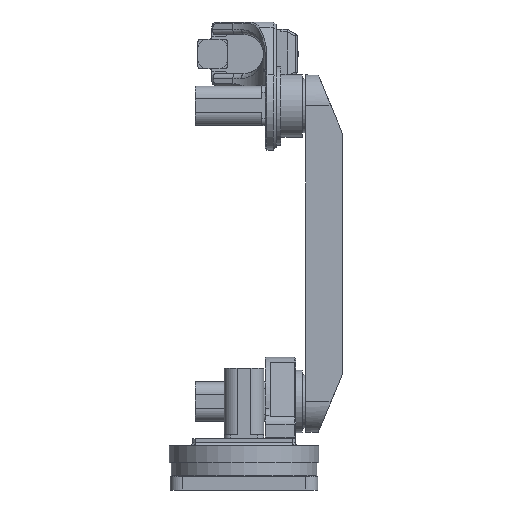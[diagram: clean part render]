
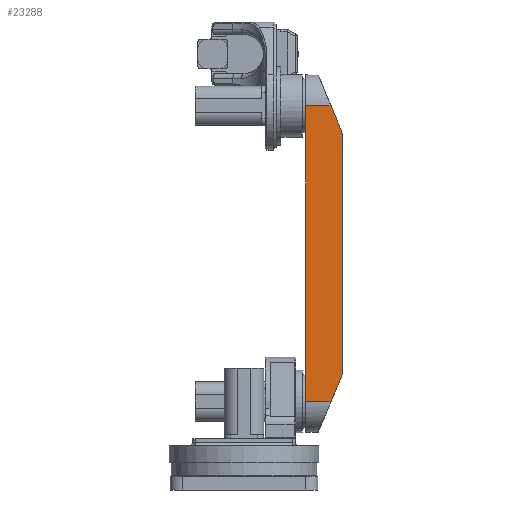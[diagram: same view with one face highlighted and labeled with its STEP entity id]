
A CAD part, left-side view. The second image highlights one B-rep face of the part: STEP entity #23288.
In plain terms, the highlighted planar face has unit normal (-1, 0, 0).
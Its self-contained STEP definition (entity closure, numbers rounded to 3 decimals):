
#18355 = PLANE('',#18356);
#18356 = AXIS2_PLACEMENT_3D('',#18357,#18358,#18359);
#18357 = CARTESIAN_POINT('',(222.5,-200.5,207.5));
#18358 = DIRECTION('',(0.,0.923,0.385
    ));
#18359 = DIRECTION('',(0.,0.385,-0.923
    ));
#19146 = PLANE('',#19147);
#19147 = AXIS2_PLACEMENT_3D('',#19148,#19149,#19150);
#19148 = CARTESIAN_POINT('',(222.5,-150.5,812.5));
#19149 = DIRECTION('',(0.,0.923,-0.385
    ));
#19150 = DIRECTION('',(0.,-0.385,
    -0.923));
#22007 = VERTEX_POINT('',#22008);
#22008 = CARTESIAN_POINT('',(97.5,-176.542,750.));
#22027 = CYLINDRICAL_SURFACE('',#22028,62.5);
#22028 = AXIS2_PLACEMENT_3D('',#22029,#22030,#22031);
#22029 = CARTESIAN_POINT('',(160.,-125.5,750.));
#22030 = DIRECTION('',(0.,-1.,0.));
#22031 = DIRECTION('',(0.,0.,1.));
#22061 = EDGE_CURVE('',#22007,#22062,#22064,.T.);
#22062 = VERTEX_POINT('',#22063);
#22063 = CARTESIAN_POINT('',(97.5,-200.5,692.5));
#22064 = SURFACE_CURVE('',#22065,(#22069,#22076),.PCURVE_S1.);
#22065 = LINE('',#22066,#22067);
#22066 = CARTESIAN_POINT('',(97.5,-159.746,
    790.311));
#22067 = VECTOR('',#22068,1.);
#22068 = DIRECTION('',(0.,-0.385,
    -0.923));
#22069 = PCURVE('',#19146,#22070);
#22070 = DEFINITIONAL_REPRESENTATION('',(#22071),#22075);
#22071 = LINE('',#22072,#22073);
#22072 = CARTESIAN_POINT('',(24.038,125.));
#22073 = VECTOR('',#22074,1.);
#22074 = DIRECTION('',(1.,0.));
#22075 = ( GEOMETRIC_REPRESENTATION_CONTEXT(2) 
PARAMETRIC_REPRESENTATION_CONTEXT() REPRESENTATION_CONTEXT('2D SPACE',''
  ) );
#22076 = PCURVE('',#22077,#22082);
#22077 = PLANE('',#22078);
#22078 = AXIS2_PLACEMENT_3D('',#22079,#22080,#22081);
#22079 = CARTESIAN_POINT('',(97.5,-125.5,750.));
#22080 = DIRECTION('',(-1.,0.,0.));
#22081 = DIRECTION('',(0.,0.,-1.));
#22082 = DEFINITIONAL_REPRESENTATION('',(#22083),#22087);
#22083 = LINE('',#22084,#22085);
#22084 = CARTESIAN_POINT('',(-40.311,34.246));
#22085 = VECTOR('',#22086,1.);
#22086 = DIRECTION('',(0.923,0.385));
#22087 = ( GEOMETRIC_REPRESENTATION_CONTEXT(2) 
PARAMETRIC_REPRESENTATION_CONTEXT() REPRESENTATION_CONTEXT('2D SPACE',''
  ) );
#22105 = PLANE('',#22106);
#22106 = AXIS2_PLACEMENT_3D('',#22107,#22108,#22109);
#22107 = CARTESIAN_POINT('',(160.,-200.5,450.));
#22108 = DIRECTION('',(0.,-1.,0.));
#22109 = DIRECTION('',(-1.,0.,0.));
#22193 = VERTEX_POINT('',#22194);
#22194 = CARTESIAN_POINT('',(97.5,-200.5,207.5));
#22215 = EDGE_CURVE('',#22216,#22193,#22218,.T.);
#22216 = VERTEX_POINT('',#22217);
#22217 = CARTESIAN_POINT('',(97.5,-176.542,150.));
#22218 = SURFACE_CURVE('',#22219,(#22223,#22230),.PCURVE_S1.);
#22219 = LINE('',#22220,#22221);
#22220 = CARTESIAN_POINT('',(97.5,-291.254,425.311));
#22221 = VECTOR('',#22222,1.);
#22222 = DIRECTION('',(0.,-0.385,
    0.923));
#22223 = PCURVE('',#18355,#22224);
#22224 = DEFINITIONAL_REPRESENTATION('',(#22225),#22229);
#22225 = LINE('',#22226,#22227);
#22226 = CARTESIAN_POINT('',(-235.962,125.));
#22227 = VECTOR('',#22228,1.);
#22228 = DIRECTION('',(-1.,0.));
#22229 = ( GEOMETRIC_REPRESENTATION_CONTEXT(2) 
PARAMETRIC_REPRESENTATION_CONTEXT() REPRESENTATION_CONTEXT('2D SPACE',''
  ) );
#22230 = PCURVE('',#22077,#22231);
#22231 = DEFINITIONAL_REPRESENTATION('',(#22232),#22236);
#22232 = LINE('',#22233,#22234);
#22233 = CARTESIAN_POINT('',(324.689,165.754));
#22234 = VECTOR('',#22235,1.);
#22235 = DIRECTION('',(-0.923,0.385));
#22236 = ( GEOMETRIC_REPRESENTATION_CONTEXT(2) 
PARAMETRIC_REPRESENTATION_CONTEXT() REPRESENTATION_CONTEXT('2D SPACE',''
  ) );
#22259 = CYLINDRICAL_SURFACE('',#22260,62.5);
#22260 = AXIS2_PLACEMENT_3D('',#22261,#22262,#22263);
#22261 = CARTESIAN_POINT('',(160.,-125.5,150.));
#22262 = DIRECTION('',(0.,-1.,0.));
#22263 = DIRECTION('',(0.,-0.,-1.));
#22378 = PLANE('',#22379);
#22379 = AXIS2_PLACEMENT_3D('',#22380,#22381,#22382);
#22380 = CARTESIAN_POINT('',(160.,-125.5,450.));
#22381 = DIRECTION('',(0.,-1.,0.));
#22382 = DIRECTION('',(-1.,0.,0.));
#23239 = EDGE_CURVE('',#23240,#22216,#23242,.T.);
#23240 = VERTEX_POINT('',#23241);
#23241 = CARTESIAN_POINT('',(97.5,-125.5,150.));
#23242 = SURFACE_CURVE('',#23243,(#23247,#23254),.PCURVE_S1.);
#23243 = LINE('',#23244,#23245);
#23244 = CARTESIAN_POINT('',(97.5,-125.5,150.));
#23245 = VECTOR('',#23246,1.);
#23246 = DIRECTION('',(0.,-1.,0.));
#23247 = PCURVE('',#22259,#23248);
#23248 = DEFINITIONAL_REPRESENTATION('',(#23249),#23253);
#23249 = LINE('',#23250,#23251);
#23250 = CARTESIAN_POINT('',(4.712,0.));
#23251 = VECTOR('',#23252,1.);
#23252 = DIRECTION('',(0.,1.));
#23253 = ( GEOMETRIC_REPRESENTATION_CONTEXT(2) 
PARAMETRIC_REPRESENTATION_CONTEXT() REPRESENTATION_CONTEXT('2D SPACE',''
  ) );
#23254 = PCURVE('',#22077,#23255);
#23255 = DEFINITIONAL_REPRESENTATION('',(#23256),#23260);
#23256 = LINE('',#23257,#23258);
#23257 = CARTESIAN_POINT('',(600.,0.));
#23258 = VECTOR('',#23259,1.);
#23259 = DIRECTION('',(0.,1.));
#23260 = ( GEOMETRIC_REPRESENTATION_CONTEXT(2) 
PARAMETRIC_REPRESENTATION_CONTEXT() REPRESENTATION_CONTEXT('2D SPACE',''
  ) );
#23288 = ADVANCED_FACE('',(#23289),#22077,.T.);
#23289 = FACE_BOUND('',#23290,.T.);
#23290 = EDGE_LOOP('',(#23291,#23292,#23313,#23314,#23337,#23358));
#23291 = ORIENTED_EDGE('',*,*,#22215,.T.);
#23292 = ORIENTED_EDGE('',*,*,#23293,.T.);
#23293 = EDGE_CURVE('',#22193,#22062,#23294,.T.);
#23294 = SURFACE_CURVE('',#23295,(#23299,#23306),.PCURVE_S1.);
#23295 = LINE('',#23296,#23297);
#23296 = CARTESIAN_POINT('',(97.5,-200.5,600.));
#23297 = VECTOR('',#23298,1.);
#23298 = DIRECTION('',(0.,0.,1.));
#23299 = PCURVE('',#22077,#23300);
#23300 = DEFINITIONAL_REPRESENTATION('',(#23301),#23305);
#23301 = LINE('',#23302,#23303);
#23302 = CARTESIAN_POINT('',(150.,75.));
#23303 = VECTOR('',#23304,1.);
#23304 = DIRECTION('',(-1.,0.));
#23305 = ( GEOMETRIC_REPRESENTATION_CONTEXT(2) 
PARAMETRIC_REPRESENTATION_CONTEXT() REPRESENTATION_CONTEXT('2D SPACE',''
  ) );
#23306 = PCURVE('',#22105,#23307);
#23307 = DEFINITIONAL_REPRESENTATION('',(#23308),#23312);
#23308 = LINE('',#23309,#23310);
#23309 = CARTESIAN_POINT('',(62.5,-150.));
#23310 = VECTOR('',#23311,1.);
#23311 = DIRECTION('',(0.,-1.));
#23312 = ( GEOMETRIC_REPRESENTATION_CONTEXT(2) 
PARAMETRIC_REPRESENTATION_CONTEXT() REPRESENTATION_CONTEXT('2D SPACE',''
  ) );
#23313 = ORIENTED_EDGE('',*,*,#22061,.F.);
#23314 = ORIENTED_EDGE('',*,*,#23315,.F.);
#23315 = EDGE_CURVE('',#23316,#22007,#23318,.T.);
#23316 = VERTEX_POINT('',#23317);
#23317 = CARTESIAN_POINT('',(97.5,-125.5,750.));
#23318 = SURFACE_CURVE('',#23319,(#23323,#23330),.PCURVE_S1.);
#23319 = LINE('',#23320,#23321);
#23320 = CARTESIAN_POINT('',(97.5,-125.5,750.));
#23321 = VECTOR('',#23322,1.);
#23322 = DIRECTION('',(0.,-1.,0.));
#23323 = PCURVE('',#22077,#23324);
#23324 = DEFINITIONAL_REPRESENTATION('',(#23325),#23329);
#23325 = LINE('',#23326,#23327);
#23326 = CARTESIAN_POINT('',(0.,0.));
#23327 = VECTOR('',#23328,1.);
#23328 = DIRECTION('',(0.,1.));
#23329 = ( GEOMETRIC_REPRESENTATION_CONTEXT(2) 
PARAMETRIC_REPRESENTATION_CONTEXT() REPRESENTATION_CONTEXT('2D SPACE',''
  ) );
#23330 = PCURVE('',#22027,#23331);
#23331 = DEFINITIONAL_REPRESENTATION('',(#23332),#23336);
#23332 = LINE('',#23333,#23334);
#23333 = CARTESIAN_POINT('',(7.854,0.));
#23334 = VECTOR('',#23335,1.);
#23335 = DIRECTION('',(0.,1.));
#23336 = ( GEOMETRIC_REPRESENTATION_CONTEXT(2) 
PARAMETRIC_REPRESENTATION_CONTEXT() REPRESENTATION_CONTEXT('2D SPACE',''
  ) );
#23337 = ORIENTED_EDGE('',*,*,#23338,.F.);
#23338 = EDGE_CURVE('',#23240,#23316,#23339,.T.);
#23339 = SURFACE_CURVE('',#23340,(#23344,#23351),.PCURVE_S1.);
#23340 = LINE('',#23341,#23342);
#23341 = CARTESIAN_POINT('',(97.5,-125.5,600.));
#23342 = VECTOR('',#23343,1.);
#23343 = DIRECTION('',(0.,0.,1.));
#23344 = PCURVE('',#22077,#23345);
#23345 = DEFINITIONAL_REPRESENTATION('',(#23346),#23350);
#23346 = LINE('',#23347,#23348);
#23347 = CARTESIAN_POINT('',(150.,0.));
#23348 = VECTOR('',#23349,1.);
#23349 = DIRECTION('',(-1.,0.));
#23350 = ( GEOMETRIC_REPRESENTATION_CONTEXT(2) 
PARAMETRIC_REPRESENTATION_CONTEXT() REPRESENTATION_CONTEXT('2D SPACE',''
  ) );
#23351 = PCURVE('',#22378,#23352);
#23352 = DEFINITIONAL_REPRESENTATION('',(#23353),#23357);
#23353 = LINE('',#23354,#23355);
#23354 = CARTESIAN_POINT('',(62.5,-150.));
#23355 = VECTOR('',#23356,1.);
#23356 = DIRECTION('',(0.,-1.));
#23357 = ( GEOMETRIC_REPRESENTATION_CONTEXT(2) 
PARAMETRIC_REPRESENTATION_CONTEXT() REPRESENTATION_CONTEXT('2D SPACE',''
  ) );
#23358 = ORIENTED_EDGE('',*,*,#23239,.T.);
